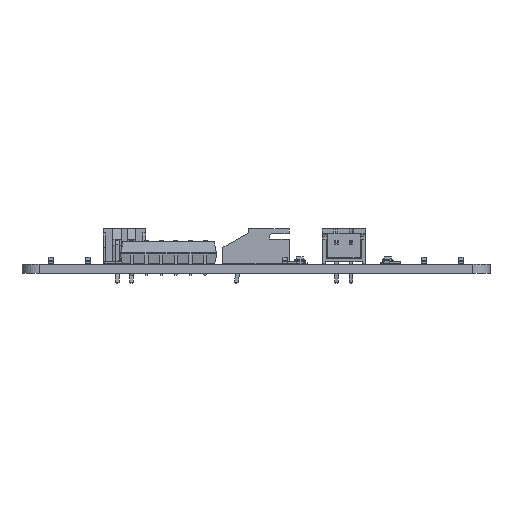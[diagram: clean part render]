
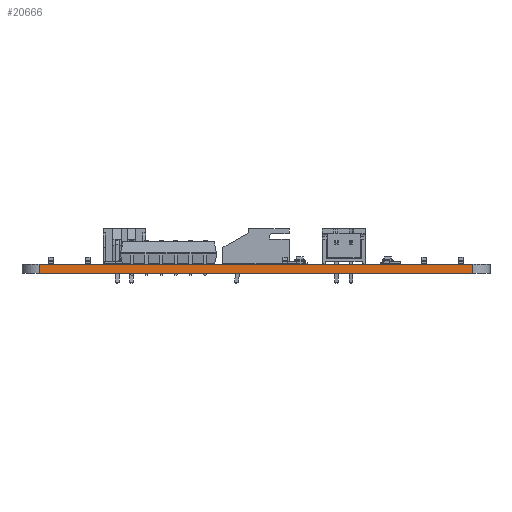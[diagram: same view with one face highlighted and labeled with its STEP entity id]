
A CAD part, front view. The second image highlights one B-rep face of the part: STEP entity #20666.
In plain terms, the highlighted planar face has unit normal (0, -1, 0).
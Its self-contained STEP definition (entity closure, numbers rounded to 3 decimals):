
#16029 = VERTEX_POINT('',#16030);
#16030 = CARTESIAN_POINT('',(107.14,-127.,0.));
#16037 = EDGE_CURVE('',#16038,#16029,#16040,.T.);
#16038 = VERTEX_POINT('',#16039);
#16039 = CARTESIAN_POINT('',(182.42,-127.,0.));
#16040 = LINE('',#16041,#16042);
#16041 = CARTESIAN_POINT('',(182.42,-127.,0.));
#16042 = VECTOR('',#16043,1.);
#16043 = DIRECTION('',(-1.,0.,0.));
#18334 = VERTEX_POINT('',#18335);
#18335 = CARTESIAN_POINT('',(107.14,-127.,1.6));
#18342 = EDGE_CURVE('',#18343,#18334,#18345,.T.);
#18343 = VERTEX_POINT('',#18344);
#18344 = CARTESIAN_POINT('',(182.42,-127.,1.6));
#18345 = LINE('',#18346,#18347);
#18346 = CARTESIAN_POINT('',(182.42,-127.,1.6));
#18347 = VECTOR('',#18348,1.);
#18348 = DIRECTION('',(-1.,0.,0.));
#20638 = EDGE_CURVE('',#16038,#18343,#20639,.T.);
#20639 = LINE('',#20640,#20641);
#20640 = CARTESIAN_POINT('',(182.42,-127.,0.));
#20641 = VECTOR('',#20642,1.);
#20642 = DIRECTION('',(0.,0.,1.));
#20666 = ADVANCED_FACE('',(#20667),#20678,.T.);
#20667 = FACE_BOUND('',#20668,.T.);
#20668 = EDGE_LOOP('',(#20669,#20670,#20671,#20677));
#20669 = ORIENTED_EDGE('',*,*,#20638,.T.);
#20670 = ORIENTED_EDGE('',*,*,#18342,.T.);
#20671 = ORIENTED_EDGE('',*,*,#20672,.F.);
#20672 = EDGE_CURVE('',#16029,#18334,#20673,.T.);
#20673 = LINE('',#20674,#20675);
#20674 = CARTESIAN_POINT('',(107.14,-127.,0.));
#20675 = VECTOR('',#20676,1.);
#20676 = DIRECTION('',(0.,0.,1.));
#20677 = ORIENTED_EDGE('',*,*,#16037,.F.);
#20678 = PLANE('',#20679);
#20679 = AXIS2_PLACEMENT_3D('',#20680,#20681,#20682);
#20680 = CARTESIAN_POINT('',(182.42,-127.,0.));
#20681 = DIRECTION('',(0.,-1.,0.));
#20682 = DIRECTION('',(-1.,0.,0.));
